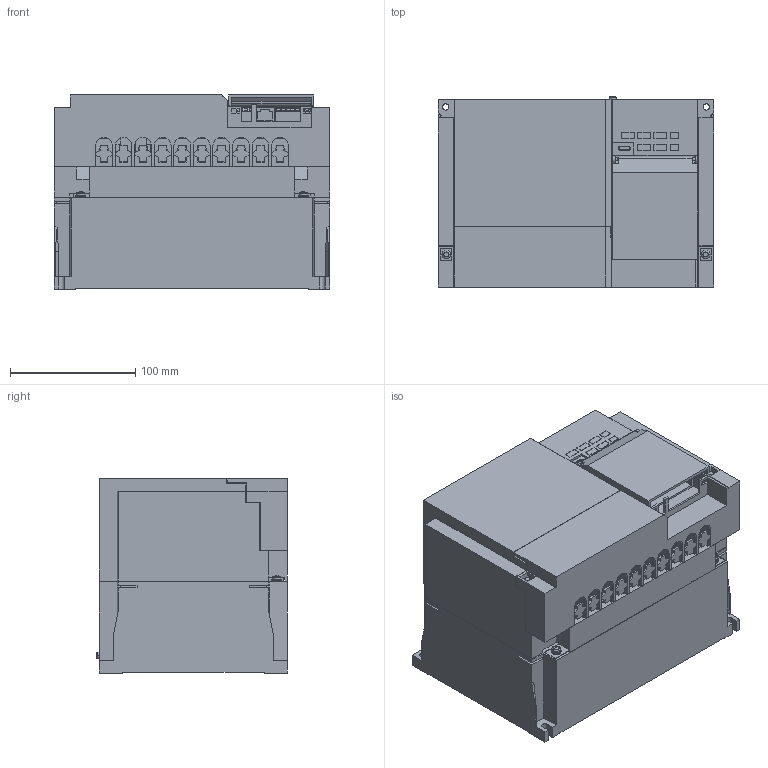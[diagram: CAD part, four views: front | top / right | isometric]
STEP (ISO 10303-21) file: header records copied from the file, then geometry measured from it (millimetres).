
FILE_DESCRIPTION((''),'2;1');
FILE_NAME('3D-INV-52_07_ASM','2024-11-28T16:05:58',('CT89920'),(''),'CREO PARAMETRIC BY PTC INC, 2022281','CREO PARAMETRIC BY PTC INC, 2022281','');
FILE_SCHEMA(('CONFIG_CONTROL_DESIGN','SHAPE_APPEARANCE_LAYERS_GROUPS'));
Length unit declared in the file: millimetre
Products named in the file (11): 3D-BASE-52_07E; 3D-FAN_COV-52_07; 3D-FAN-60; 3D-FAN-52_07_ASM; 3D-TE-SHORT-51_07; 3D-TE-NEJI-M4X12-52_07; 3D-TE-NEJI-52_07_ASM; 3D-SW-PW-P-NA-M4X8; 3D-W_COV-51_07; 3D-S_COV-D80-1_5; 3D-INV-52_07_ASM
Assembly tree (20 placements, depth 3):
  3D-INV-52_07_ASM
    3D-BASE-52_07E
    3D-FAN-52_07_ASM
      3D-FAN_COV-52_07
      3D-FAN-60
    3D-TE-NEJI-52_07_ASM
      3D-TE-SHORT-51_07
      3D-TE-NEJI-M4X12-52_07  x10
    3D-SW-PW-P-NA-M4X8  x2
    3D-W_COV-51_07
    3D-S_COV-D80-1_5
Bounding box: 220 x 152.2 x 155 mm (x, y, z)
Volume: 2619774.2 mm3; surface area: 475628.7 mm2
Topology: 18 solids, 18 shells, 1490 faces, 4057 edges, 2664 vertices
Faces by surface type: plane 1189, cylinder 251, torus 30, cone 12, bspline 4, sphere 4
Entity records: 53624 total; most frequent: CARTESIAN_POINT 7812, ORIENTED_EDGE 7542, DIRECTION 7048, EDGE_CURVE 3771, VECTOR 3258, LINE 3258, VERTEX_POINT 2483, PRESENTATION_STYLE_ASSIGNMENT 2279
